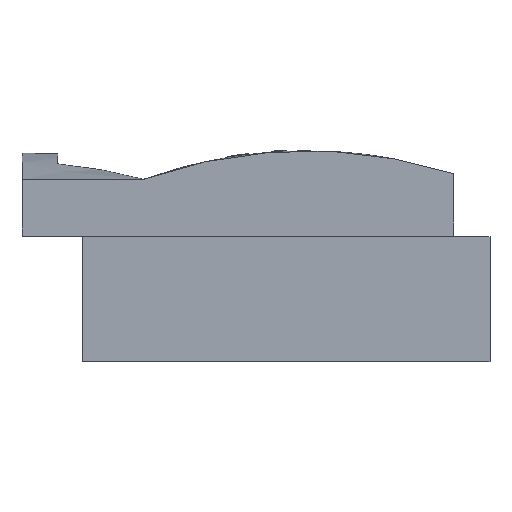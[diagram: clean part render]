
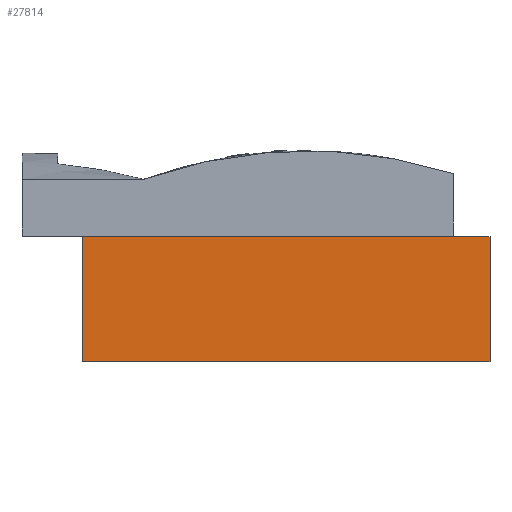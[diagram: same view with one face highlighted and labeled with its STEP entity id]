
A CAD part, left-side view. The second image highlights one B-rep face of the part: STEP entity #27814.
In plain terms, the highlighted planar face has unit normal (-1, 0, 0).
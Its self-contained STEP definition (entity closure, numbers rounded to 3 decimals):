
#612 = CARTESIAN_POINT ( 'NONE',  ( -92.5, 107.5, 66. ) ) ;
#1143 = DIRECTION ( 'NONE',  ( 0., 0., -1. ) ) ;
#4152 = CARTESIAN_POINT ( 'NONE',  ( -92.5, -107.5, 66. ) ) ;
#4160 = EDGE_CURVE ( 'NONE', #39179, #31079, #36256, .T. ) ;
#8517 = PLANE ( 'NONE',  #22626 ) ;
#8675 = VERTEX_POINT ( 'NONE', #49944 ) ;
#10391 = VECTOR ( 'NONE', #47763, 1000. ) ;
#12047 = EDGE_CURVE ( 'NONE', #31079, #25251, #44346, .T. ) ;
#12106 = FACE_OUTER_BOUND ( 'NONE', #22776, .T. ) ;
#13025 = VECTOR ( 'NONE', #21031, 1000. ) ;
#13315 = LINE ( 'NONE', #29690, #45784 ) ;
#16236 = ORIENTED_EDGE ( 'NONE', *, *, #41704, .F. ) ;
#16949 = DIRECTION ( 'NONE',  ( 0., 0., -1. ) ) ;
#17784 = ORIENTED_EDGE ( 'NONE', *, *, #43750, .F. ) ;
#20506 = ORIENTED_EDGE ( 'NONE', *, *, #4160, .T. ) ;
#21031 = DIRECTION ( 'NONE',  ( 0., -1., 0. ) ) ;
#21933 = ORIENTED_EDGE ( 'NONE', *, *, #12047, .T. ) ;
#22626 = AXIS2_PLACEMENT_3D ( 'NONE', #4152, #47704, #16949 ) ;
#22776 = EDGE_LOOP ( 'NONE', ( #21933, #16236, #17784, #20506 ) ) ;
#24017 = CARTESIAN_POINT ( 'NONE',  ( -92.5, 107.5, 0. ) ) ;
#24874 = CARTESIAN_POINT ( 'NONE',  ( -92.5, -107.5, 0. ) ) ;
#25251 = VERTEX_POINT ( 'NONE', #49808 ) ;
#27814 = ADVANCED_FACE ( 'NONE', ( #12106 ), #8517, .F. ) ;
#29690 = CARTESIAN_POINT ( 'NONE',  ( -92.5, -107.5, 66. ) ) ;
#31079 = VERTEX_POINT ( 'NONE', #24017 ) ;
#36256 = LINE ( 'NONE', #612, #10391 ) ;
#36282 = LINE ( 'NONE', #39861, #50431 ) ;
#37643 = CARTESIAN_POINT ( 'NONE',  ( -92.5, 107.5, 66. ) ) ;
#39179 = VERTEX_POINT ( 'NONE', #37643 ) ;
#39861 = CARTESIAN_POINT ( 'NONE',  ( -92.5, -107.5, 66. ) ) ;
#41704 = EDGE_CURVE ( 'NONE', #8675, #25251, #36282, .T. ) ;
#43750 = EDGE_CURVE ( 'NONE', #39179, #8675, #13315, .T. ) ;
#44346 = LINE ( 'NONE', #24874, #13025 ) ;
#45320 = DIRECTION ( 'NONE',  ( 0., -1., 0. ) ) ;
#45784 = VECTOR ( 'NONE', #45320, 1000. ) ;
#47704 = DIRECTION ( 'NONE',  ( 1., 0., 0. ) ) ;
#47763 = DIRECTION ( 'NONE',  ( 0., 0., -1. ) ) ;
#49808 = CARTESIAN_POINT ( 'NONE',  ( -92.5, -107.5, 0. ) ) ;
#49944 = CARTESIAN_POINT ( 'NONE',  ( -92.5, -107.5, 66. ) ) ;
#50431 = VECTOR ( 'NONE', #1143, 1000. ) ;
